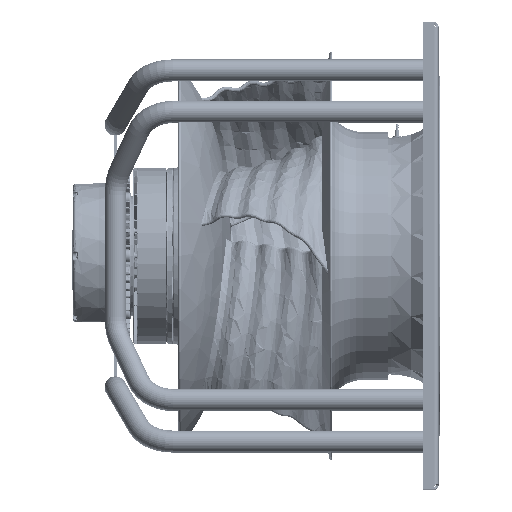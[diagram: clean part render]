
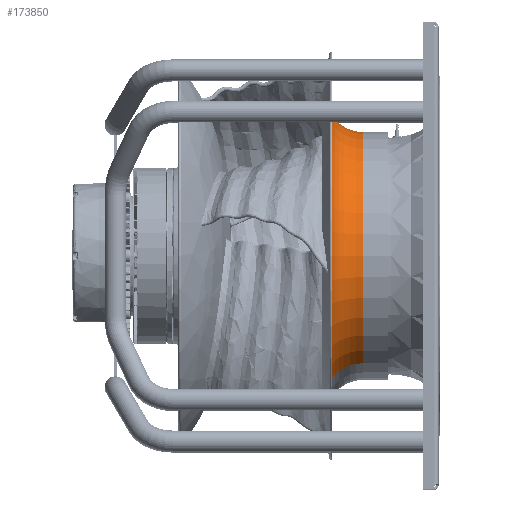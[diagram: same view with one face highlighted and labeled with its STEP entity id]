
A CAD part, top view. The second image highlights one B-rep face of the part: STEP entity #173850.
In plain terms, the highlighted toroidal (fillet/blend) face has major radius 251.469 mm and minor radius 57.769 mm.
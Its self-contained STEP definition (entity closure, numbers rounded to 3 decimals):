
#21349=CARTESIAN_POINT('',(236.285,0.,0.));
#21350=DIRECTION('',(1.,0.,0.));
#21351=DIRECTION('',(0.,0.866,-0.5));
#21352=AXIS2_PLACEMENT_3D('',#21349,#21350,#21351);
#21736=CARTESIAN_POINT('',(293.235,0.,0.));
#21737=DIRECTION('',(1.,0.,0.));
#21738=DIRECTION('',(0.,0.866,-0.5));
#21739=AXIS2_PLACEMENT_3D('',#21736,#21737,#21738);
#21741=CARTESIAN_POINT('',(293.235,217.779,
-125.735));
#21742=DIRECTION('',(0.,-0.5,-0.866));
#21743=DIRECTION('',(0.,-0.866,0.5));
#21744=AXIS2_PLACEMENT_3D('',#21741,#21742,#21743);
#21746=CARTESIAN_POINT('',(293.235,-217.779,
125.735));
#21747=DIRECTION('',(0.,0.5,0.866));
#21748=DIRECTION('',(0.,0.866,-0.5));
#21749=AXIS2_PLACEMENT_3D('',#21746,#21747,#21748);
#128628=CARTESIAN_POINT('',(293.235,167.749,-96.85));
#128629=CARTESIAN_POINT('',(236.285,226.177,
-130.583));
#128630=VERTEX_POINT('',#128628);
#128631=VERTEX_POINT('',#128629);
#128648=CARTESIAN_POINT('',(293.235,-167.749,96.85));
#128649=CARTESIAN_POINT('',(236.285,-226.177,
130.583));
#128650=VERTEX_POINT('',#128648);
#128651=VERTEX_POINT('',#128649);
#173836=CARTESIAN_POINT('',(293.235,0.,0.));
#173837=DIRECTION('',(1.,0.,0.));
#173838=DIRECTION('',(0.,-0.866,0.5));
#173839=AXIS2_PLACEMENT_3D('',#173836,#173837,#173838);
#173840=TOROIDAL_SURFACE('',#173839,251.469,57.769);
#173842=ORIENTED_EDGE('',*,*,#173841,.F.);
#173844=ORIENTED_EDGE('',*,*,#173843,.T.);
#173846=ORIENTED_EDGE('',*,*,#173845,.T.);
#173847=ORIENTED_EDGE('',*,*,#173696,.F.);
#173848=EDGE_LOOP('',(#173842,#173844,#173846,#173847));
#173849=FACE_OUTER_BOUND('',#173848,.F.);
#21353=CIRCLE('',#21352,261.166);
#21740=CIRCLE('',#21739,193.7);
#21745=CIRCLE('',#21744,57.769);
#21750=CIRCLE('',#21749,57.769);
#173696=EDGE_CURVE('',#128631,#128651,#21353,.T.);
#173841=EDGE_CURVE('',#128630,#128631,#21745,.T.);
#173843=EDGE_CURVE('',#128630,#128650,#21740,.T.);
#173845=EDGE_CURVE('',#128650,#128651,#21750,.T.);
#173850=ADVANCED_FACE('',(#173849),#173840,.F.);
